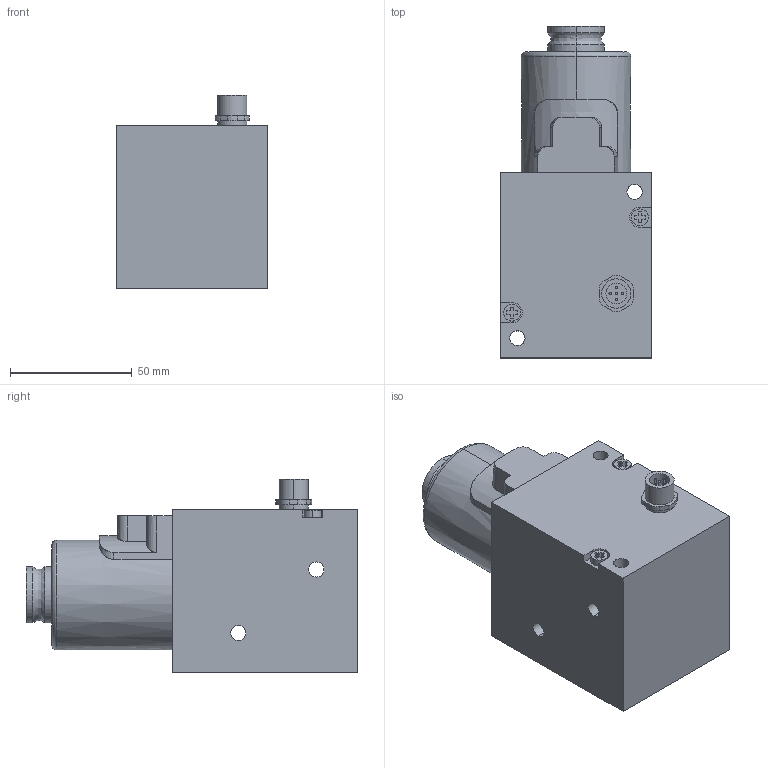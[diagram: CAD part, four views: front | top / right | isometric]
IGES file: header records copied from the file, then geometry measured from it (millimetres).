
Start section:  PTC IGES file: R414002003\r414002003.iges
Global section: file name: R414002003\r414002003.iges; native system: Creo Parametric by PTC Inc.; preprocessor: 2020044; author: THD3HC; organization: Unknown; date: 20231121.145204; units: millimetre
Bounding box: 62 x 136 x 79.5 mm (x, y, z)
Surface area: 53620.4 mm2 (no closed solid volume)
Topology: 0 solids, 0 shells, 196 faces, 976 edges, 976 vertices
Faces by surface type: bspline 98, revolution 98
